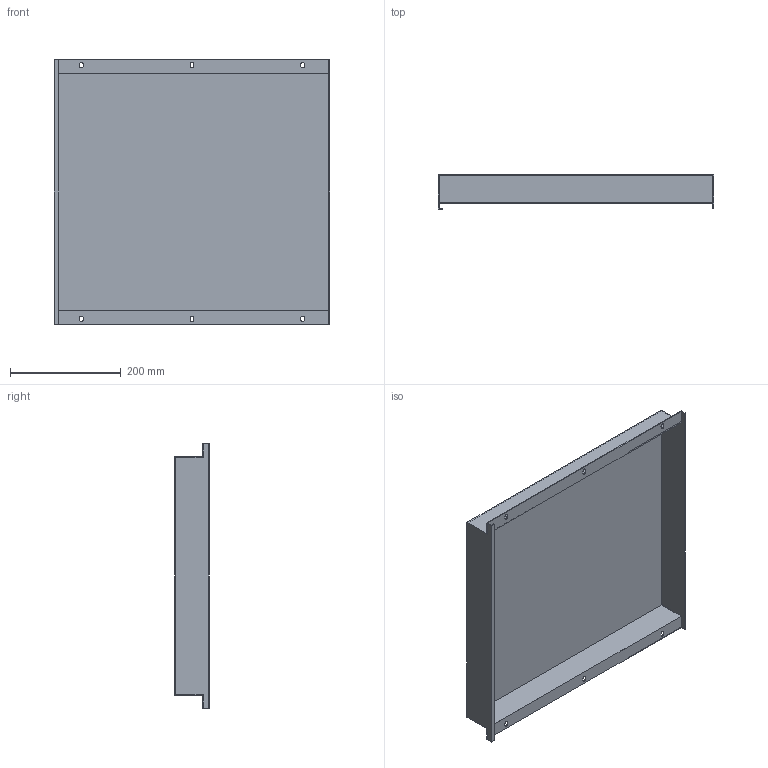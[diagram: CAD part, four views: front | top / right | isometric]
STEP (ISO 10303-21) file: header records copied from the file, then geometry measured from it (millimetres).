
FILE_DESCRIPTION (( 'STEP AP214' ), '1' );
FILE_NAME ('FO-00-PVSU-050-060 Ïëàñòðîí âíóòðåííèé óãëóáëåííûé 500õ600õ50.STEP', '2025-08-26T13:55:46', ( '' ), ( '' ), 'SwSTEP 2.0', 'SolidWorks 2023', '' );
FILE_SCHEMA (( 'AUTOMOTIVE_DESIGN' ));
Length unit declared in the file: millimetre
Products named in the file (1): FO-00-PVSU-050-060 Пластрон внутренний углубленный 500х600х50
Bounding box: 498 x 62.5 x 479 mm (x, y, z)
Volume: 481001.4 mm3; surface area: 690188.6 mm2
Topology: 1 solids, 1 shells, 58 faces, 168 edges, 112 vertices
Faces by surface type: plane 40, cylinder 18
Entity records: 1955 total; most frequent: CARTESIAN_POINT 339, ORIENTED_EDGE 336, DIRECTION 322, EDGE_CURVE 168, LINE 132, VECTOR 132, VERTEX_POINT 112, AXIS2_PLACEMENT_3D 95
